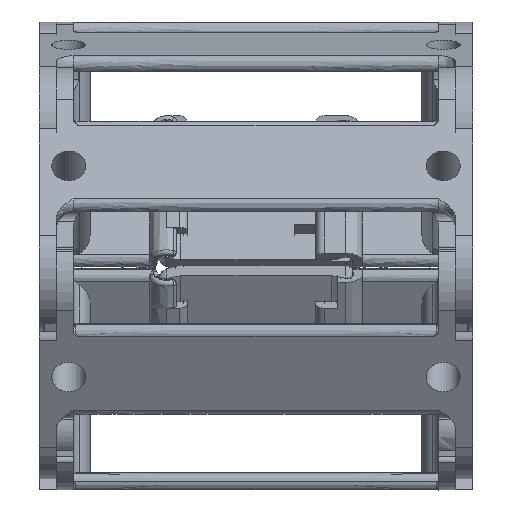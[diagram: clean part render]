
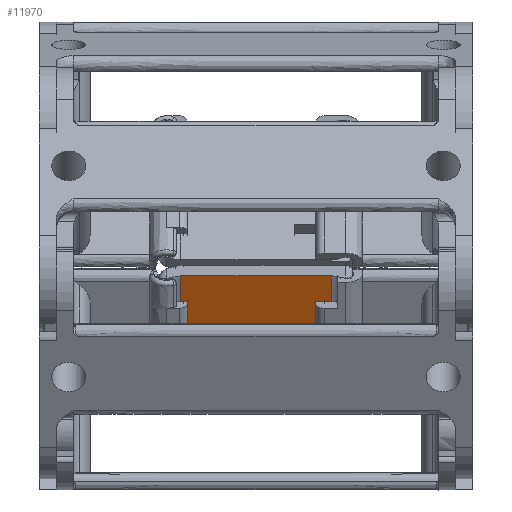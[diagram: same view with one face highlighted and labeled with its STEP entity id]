
A CAD part, front view. The second image highlights one B-rep face of the part: STEP entity #11970.
In plain terms, the highlighted planar face has unit normal (0, -0.866, -0.5) as drawn and (0, -1, 0) by its records, which use the part's own axes.
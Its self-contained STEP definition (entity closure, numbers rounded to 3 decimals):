
#10640=CARTESIAN_POINT('',(-41.33,-0.5,8.5));
#10641=VERTEX_POINT('',#10640);
#10649=CARTESIAN_POINT('',(-41.33,-0.5,12.));
#10650=VERTEX_POINT('',#10649);
#10651=CARTESIAN_POINT('',(-41.33,-0.5,8.5));
#10652=DIRECTION('',(0.0,0.0,1.0));
#10653=VECTOR('',#10652,3.5);
#10654=LINE('',#10651,#10653);
#10655=EDGE_CURVE('',#10641,#10650,#10654,.T.);
#10854=CARTESIAN_POINT('',(-41.,-0.5,8.5));
#10855=VERTEX_POINT('',#10854);
#10862=CARTESIAN_POINT('',(-41.33,-0.5,8.5));
#10863=DIRECTION('',(1.0,0.0,0.0));
#10864=VECTOR('',#10863,0.33);
#10865=LINE('',#10862,#10864);
#10866=EDGE_CURVE('',#10641,#10855,#10865,.T.);
#10880=CARTESIAN_POINT('',(-41.,-0.5,3.5));
#10881=VERTEX_POINT('',#10880);
#10882=CARTESIAN_POINT('',(-41.,-0.5,8.5));
#10883=DIRECTION('',(0.0,0.0,-1.0));
#10884=VECTOR('',#10883,5.);
#10885=LINE('',#10882,#10884);
#10886=EDGE_CURVE('',#10855,#10881,#10885,.T.);
#10920=CARTESIAN_POINT('',(-41.33,-0.5,3.5));
#10921=VERTEX_POINT('',#10920);
#10929=CARTESIAN_POINT('',(-41.,-0.5,3.5));
#10930=DIRECTION('',(-1.0,0.0,0.0));
#10931=VECTOR('',#10930,0.33);
#10932=LINE('',#10929,#10931);
#10933=EDGE_CURVE('',#10881,#10921,#10932,.T.);
#11058=CARTESIAN_POINT('',(-23.658,-0.5,0.0));
#11059=VERTEX_POINT('',#11058);
#11060=CARTESIAN_POINT('',(-23.658,-0.5,3.5));
#11061=VERTEX_POINT('',#11060);
#11062=CARTESIAN_POINT('',(-23.658,-0.5,0.0));
#11063=DIRECTION('',(0.0,0.0,1.0));
#11064=VECTOR('',#11063,3.5);
#11065=LINE('',#11062,#11064);
#11066=EDGE_CURVE('',#11059,#11061,#11065,.T.);
#11138=CARTESIAN_POINT('',(-41.33,-0.5,0.0));
#11139=VERTEX_POINT('',#11138);
#11140=CARTESIAN_POINT('',(-23.658,-0.5,0.0));
#11141=DIRECTION('',(-1.0,0.0,0.0));
#11142=VECTOR('',#11141,17.672);
#11143=LINE('',#11140,#11142);
#11144=EDGE_CURVE('',#11059,#11139,#11143,.T.);
#11262=CARTESIAN_POINT('',(-24.5,-0.5,8.5));
#11263=VERTEX_POINT('',#11262);
#11270=CARTESIAN_POINT('',(-24.5,-0.5,4.8));
#11271=VERTEX_POINT('',#11270);
#11272=CARTESIAN_POINT('',(-24.5,-0.5,4.8));
#11273=DIRECTION('',(0.0,0.0,1.0));
#11274=VECTOR('',#11273,3.7);
#11275=LINE('',#11272,#11274);
#11276=EDGE_CURVE('',#11271,#11263,#11275,.T.);
#11681=CARTESIAN_POINT('',(-23.658,-0.5,8.5));
#11682=VERTEX_POINT('',#11681);
#11683=CARTESIAN_POINT('',(-24.5,-0.5,8.5));
#11684=DIRECTION('',(1.0,0.0,0.0));
#11685=VECTOR('',#11684,0.842);
#11686=LINE('',#11683,#11685);
#11687=EDGE_CURVE('',#11263,#11682,#11686,.T.);
#11711=CARTESIAN_POINT('',(-28.,-0.5,4.8));
#11712=VERTEX_POINT('',#11711);
#11713=CARTESIAN_POINT('',(-28.,-0.5,4.8));
#11714=DIRECTION('',(1.0,0.0,0.0));
#11715=VECTOR('',#11714,3.5);
#11716=LINE('',#11713,#11715);
#11717=EDGE_CURVE('',#11712,#11271,#11716,.T.);
#11745=CARTESIAN_POINT('',(-28.,-0.5,3.5));
#11746=VERTEX_POINT('',#11745);
#11753=CARTESIAN_POINT('',(-23.658,-0.5,3.5));
#11754=DIRECTION('',(-1.0,0.0,0.0));
#11755=VECTOR('',#11754,4.342);
#11756=LINE('',#11753,#11755);
#11757=EDGE_CURVE('',#11061,#11746,#11756,.T.);
#11768=CARTESIAN_POINT('',(-28.,-0.5,3.5));
#11769=DIRECTION('',(0.0,0.0,1.0));
#11770=VECTOR('',#11769,1.3);
#11771=LINE('',#11768,#11770);
#11772=EDGE_CURVE('',#11746,#11712,#11771,.T.);
#11787=CARTESIAN_POINT('',(-23.658,-0.5,12.));
#11788=VERTEX_POINT('',#11787);
#11796=CARTESIAN_POINT('',(-23.658,-0.5,8.5));
#11797=DIRECTION('',(0.0,0.0,1.0));
#11798=VECTOR('',#11797,3.5);
#11799=LINE('',#11796,#11798);
#11800=EDGE_CURVE('',#11682,#11788,#11799,.T.);
#11920=CARTESIAN_POINT('',(-23.658,-0.5,12.));
#11921=DIRECTION('',(-1.0,0.0,0.0));
#11922=VECTOR('',#11921,17.672);
#11923=LINE('',#11920,#11922);
#11924=EDGE_CURVE('',#11788,#10650,#11923,.T.);
#11944=CARTESIAN_POINT('',(-23.658,-0.5,0.0));
#11945=DIRECTION('',(0.0,-1.0,0.0));
#11946=DIRECTION('',(0.0,0.0,-1.0));
#11947=AXIS2_PLACEMENT_3D('',#11944,#11945,#11946);
#11948=PLANE('',#11947);
#11949=ORIENTED_EDGE('',*,*,#10933,.T.);
#11950=CARTESIAN_POINT('',(-41.33,-0.5,0.0));
#11951=DIRECTION('',(0.0,0.0,1.0));
#11952=VECTOR('',#11951,3.5);
#11953=LINE('',#11950,#11952);
#11954=EDGE_CURVE('',#11139,#10921,#11953,.T.);
#11955=ORIENTED_EDGE('',*,*,#11954,.F.);
#11956=ORIENTED_EDGE('',*,*,#11144,.F.);
#11957=ORIENTED_EDGE('',*,*,#11066,.T.);
#11958=ORIENTED_EDGE('',*,*,#11757,.T.);
#11959=ORIENTED_EDGE('',*,*,#11772,.T.);
#11960=ORIENTED_EDGE('',*,*,#11717,.T.);
#11961=ORIENTED_EDGE('',*,*,#11276,.T.);
#11962=ORIENTED_EDGE('',*,*,#11687,.T.);
#11963=ORIENTED_EDGE('',*,*,#11800,.T.);
#11964=ORIENTED_EDGE('',*,*,#11924,.T.);
#11965=ORIENTED_EDGE('',*,*,#10655,.F.);
#11966=ORIENTED_EDGE('',*,*,#10866,.T.);
#11967=ORIENTED_EDGE('',*,*,#10886,.T.);
#11968=EDGE_LOOP('',(#11949,#11955,#11956,#11957,#11958,#11959,#11960,#11961,#11962,#11963,#11964,#11965,#11966,#11967));
#11969=FACE_OUTER_BOUND('',#11968,.T.);
#11970=ADVANCED_FACE('',(#11969),#11948,.T.);
